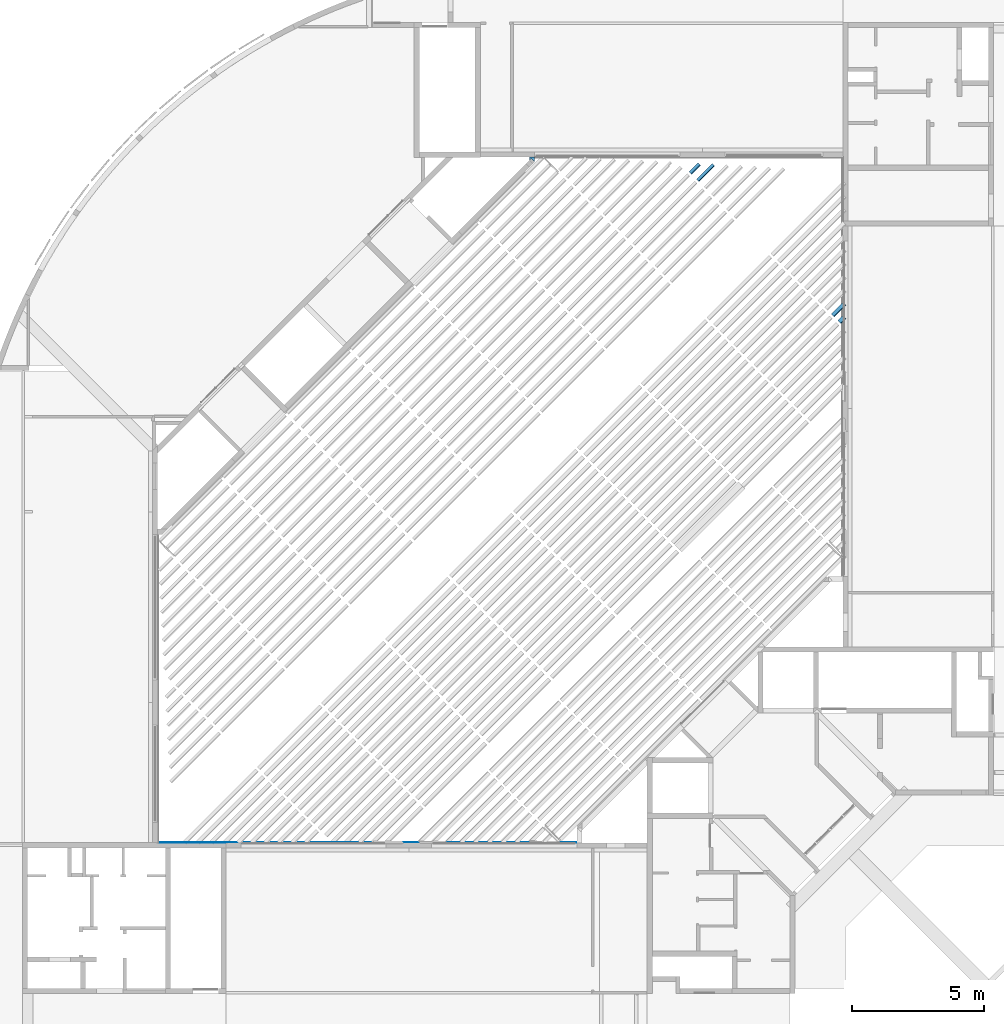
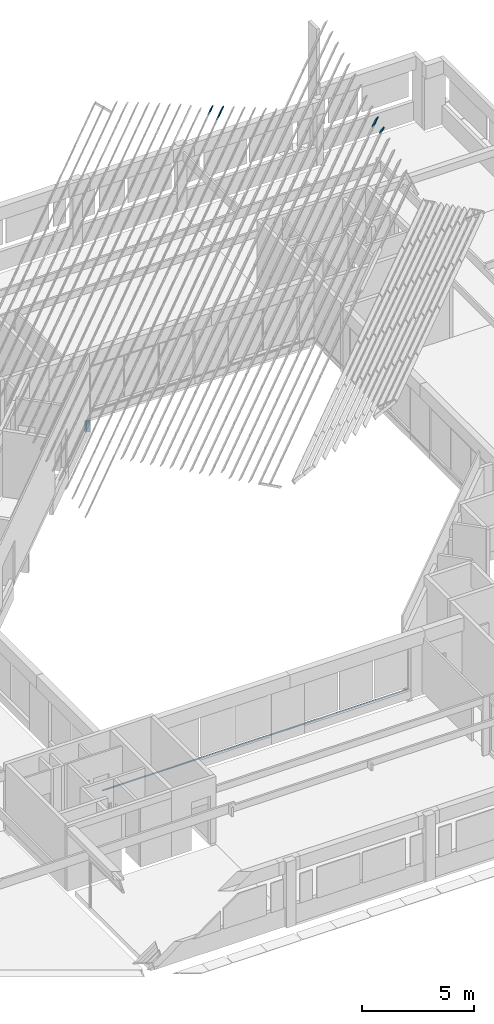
# One storey, part 15 of 37: 5 beams, 1 member.
"""IFC4X3_ADD2 building model written with IfcOpenShell, lengths in millimetres."""

from ifc_helpers import new_model, si_unit, direction, frame, origin_with_axes, origin_2d_with_axis, place, context, subcontext, project, spatial, rectangle, extrude, polygons, source, transform, mapped, material, type_object, type_shapes, element, save


model = new_model("IFC4X3_ADD2")

# Units and contexts
model_context = context("Model", 3, precision=1e-05, world=origin_with_axes(), true_north=direction((0.0, 1.0)))
body_context = subcontext(model_context, "Body", "Model", "MODEL_VIEW")
ifc_project = project(units=[si_unit("LENGTHUNIT", "METRE", prefix="MILLI"), si_unit("AREAUNIT", "SQUARE_METRE"), si_unit("VOLUMEUNIT", "CUBIC_METRE"), si_unit("PLANEANGLEUNIT", "RADIAN"), si_unit("TIMEUNIT", "SECOND"), si_unit("MASSUNIT", "GRAM")], contexts=[model_context])

# Site, building, storey
site_placement = place(None, origin_with_axes())
site = spatial("IfcSite", under=ifc_project, at=site_placement, Name="Site", CompositionType="ELEMENT")
building_placement = place(site_placement, origin_with_axes())
building = spatial("IfcBuilding", under=site, at=building_placement, Name="IFC Building Story")
storey_placement = place(building_placement, frame((0.0, 0.0, 3600.0), z_axis=(0.0, 0.0, 1.0), x_axis=(1.0, 0.0, 0.0)))
storey = spatial("IfcBuildingStorey", under=building, at=storey_placement, Name="010", Elevation=3600.0)

# Beams
ifc_material_1 = material(Name="GVH_i2_naaldhout_generiek")
beam_type_1 = type_object("IfcBeamType", Name="28_SF_hout_rechthoekig_40 x 230_255", PredefinedType="NOTDEFINED")
shared_shape_1 = source(origin_with_axes(), body_context, "Body", "SweptSolid", [
    extrude(rectangle(XDim=833.300589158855, YDim=40.0000000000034, at=origin_2d_with_axis()), frame((-37.09236743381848, 0.0, -115.0), z_axis=(0.0, 0.0, 1.0), x_axis=(1.0, 0.0, 0.0)), (0.0, 0.0, 1.0), 229.9999999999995),
])
type_shapes(beam_type_1, [shared_shape_1])
beam_1_placement = place(storey_placement, frame((-17912.0264581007, 37991.9573424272, 14626.8200457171), z_axis=(0.311937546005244, -0.311937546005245, 0.8974351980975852), x_axis=(-0.7071067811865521, -0.707106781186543, 0.0)))
element("IfcBeam", 1, at=beam_1_placement, inside=storey, type_object=beam_type_1, material=ifc_material_1, Name="28_SF_hout_rechthoekig:40 x 230", ObjectType="40 x 230", PredefinedType="BEAM", context=body_context, shape_type="MappedRepresentation", body=[
    mapped(shared_shape_1, transform((0.0, 0.0, 0.0))),
])
beam_type_2 = type_object("IfcBeamType", Name="28_SF_hout_rechthoekig_40 x 230_257", PredefinedType="NOTDEFINED")
shared_shape_2 = source(origin_with_axes(), body_context, "Body", "SweptSolid", [
    extrude(rectangle(XDim=476.878001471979, YDim=40.0000000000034, at=origin_2d_with_axis()), frame((-38.88120823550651, 0.0, -115.0), z_axis=(0.0, 0.0, 1.0), x_axis=(1.0, 0.0, 0.0)), (0.0, 0.0, 1.0), 230.0),
])
type_shapes(beam_type_2, [shared_shape_2])
beam_2_placement = place(storey_placement, frame((-18320.2988160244, 38145.6712591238, 14822.1596309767), z_axis=(0.311937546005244, -0.311937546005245, 0.8974351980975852), x_axis=(-0.7071067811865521, -0.707106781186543, 0.0)))
element("IfcBeam", 2, at=beam_2_placement, inside=storey, type_object=beam_type_2, material=ifc_material_1, Name="28_SF_hout_rechthoekig:40 x 230", ObjectType="40 x 230", PredefinedType="BEAM", context=body_context, shape_type="MappedRepresentation", body=[
    mapped(shared_shape_2, transform((0.0, 0.0, 0.0))),
])
beam_type_3 = type_object("IfcBeamType", Name="28_SF_hout_rechthoekig_40 x 230_545", PredefinedType="NOTDEFINED")
shared_shape_3 = source(origin_with_axes(), body_context, "Body", "SweptSolid", [
    extrude(rectangle(XDim=626.767209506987, YDim=40.0000000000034, at=origin_2d_with_axis()), frame((1375.576601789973, 0.0, -115.0), z_axis=(0.0, 0.0, 1.0), x_axis=(1.0, 0.0, 0.0)), (0.0, 0.0, 1.0), 230.0),
])
type_shapes(beam_type_3, [shared_shape_3])
beam_3_placement = place(storey_placement, frame((-11885.8542957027, 33817.5681313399, 15521.0595232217), z_axis=(0.4307932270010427, -0.4307932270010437, 0.7929907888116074), x_axis=(-0.7071067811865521, -0.707106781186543, 0.0)))
element("IfcBeam", 3, at=beam_3_placement, inside=storey, type_object=beam_type_3, material=ifc_material_1, Name="28_SF_hout_rechthoekig:40 x 230", ObjectType="40 x 230", PredefinedType="BEAM", context=body_context, shape_type="MappedRepresentation", body=[
    mapped(shared_shape_3, transform((0.0, 0.0, 0.0))),
])
beam_type_4 = type_object("IfcBeamType", Name="28_SF_hout_rechthoekig_40 x 230_707", PredefinedType="NOTDEFINED")
shared_shape_4 = source(origin_with_axes(), body_context, "Body", "SweptSolid", [
    extrude(rectangle(XDim=267.541848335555, YDim=40.0000000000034, at=origin_2d_with_axis()), frame((1555.189231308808, 0.0, -115.0), z_axis=(0.0, 0.0, 1.0), x_axis=(1.0, 0.0, 0.0)), (0.0, 0.0, 1.0), 230.0),
])
type_shapes(beam_type_4, [shared_shape_4])
beam_4_placement = place(storey_placement, frame((-11631.843984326, 33563.5578199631, 15245.0766914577), z_axis=(0.4307932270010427, -0.4307932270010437, 0.7929907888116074), x_axis=(-0.7071067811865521, -0.707106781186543, 0.0)))
element("IfcBeam", 4, at=beam_4_placement, inside=storey, type_object=beam_type_4, material=ifc_material_1, Name="28_SF_hout_rechthoekig:40 x 230", ObjectType="40 x 230", PredefinedType="BEAM", context=body_context, shape_type="MappedRepresentation", body=[
    mapped(shared_shape_4, transform((0.0, 0.0, 0.0))),
])
ifc_material_2 = material(Name="BB_Beton_Bestaand")
beam_type_5 = type_object("IfcBeamType", Name="BB_XX_Betonbalk_ rechthoekig_ center-center_SFB_200 x 600 mm", PredefinedType="NOTDEFINED")
shared_shape_5 = source(origin_with_axes(), body_context, "Body", "Tessellation", [
    polygons([(-4.33146851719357e-12, 189.594784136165, 0.0), (-4.33146851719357e-12, 189.594784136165, 600.0), (199.999999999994, 189.594784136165, 600.0), (199.999999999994, 189.594784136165, 0.0), (-4.33146851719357e-12, 68.5648215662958, 0.0), (-4.33146851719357e-12, 68.5648215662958, 600.0), (200.006542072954, 0.0196262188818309, 0.0), (65.7372154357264, 134.302037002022, 0.0), (200.006542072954, 0.0196262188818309, 600.0), (65.7372154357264, 134.302037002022, 600.0)], [[[1, 2, 3, 4]], [[2, 1, 5, 6]], [[8, 5, 1]], [[8, 1, 4]], [[4, 7, 8]], [[4, 3, 9, 7]], [[10, 9, 3]], [[3, 2, 10]], [[2, 6, 10]], [[8, 10, 6, 5]], [[10, 8, 7, 9]]]),
])
type_shapes(beam_type_5, [shared_shape_5])
beam_5_placement = place(storey_placement, frame((-24545.0, 38415.4011499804, -800.0), z_axis=(0.0, 0.0, 1.0), x_axis=(1.0, 0.0, 0.0)))
element("IfcBeam", 5, at=beam_5_placement, inside=storey, type_object=beam_type_5, material=ifc_material_2, Name="BB_XX_Betonbalk, rechthoekig, center-center_SFB:200 x 600 mm", ObjectType="BB_XX_Betonbalk, rechthoekig, center-center_SFB:200 x 600 mm", PredefinedType="BEAM", context=body_context, shape_type="MappedRepresentation", body=[
    mapped(shared_shape_5, transform((0.0, 0.0, 0.0))),
])

# Member
ifc_material_3 = material(Name="BB_Metaal_Aluminium_Buitenschrijnwerk")
member_type = type_object("IfcMemberType", Name="BB_10.12.90_Verankeringsrail_GLI_XX_H 50mm x B 30mm", PredefinedType="NOTDEFINED")
shared_shape_6 = source(origin_with_axes(), body_context, "Body", "Tessellation", [
    polygons([(30.0000000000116, 29.9999999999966, -1.86117787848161e-12), (6.29698515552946e-12, -8.42676484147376e-12, -1.86117787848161e-12), (15815.0031355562, -8.42605984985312e-12, -1.86117787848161e-12), (15815.0031355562, 29.9999999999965, -1.86117787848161e-12), (6.29698515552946e-12, -8.42746983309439e-12, -50.0000000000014), (15815.0031355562, -8.42605984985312e-12, -50.0000000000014), (30.0000000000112, 29.9999999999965, -50.0000000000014), (15815.0031355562, 29.9999999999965, -50.0000000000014)], [[[1, 2, 3, 4]], [[2, 5, 6, 3]], [[5, 7, 8, 6]], [[7, 1, 4, 8]], [[2, 1, 7, 5]], [[4, 3, 6, 8]]]),
])
type_shapes(member_type, [shared_shape_6])
member_placement = place(storey_placement, frame((-38590.0031355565, 12695.004065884, 220.0), z_axis=(0.0, 0.0, 1.0), x_axis=(1.0, 0.0, 0.0)))
element("IfcMember", 6, at=member_placement, inside=storey, type_object=member_type, material=ifc_material_3, Name="BB_10.12.90_Verankeringsrail_GLI:XX_H 50mm x B 30mm", ObjectType="BB_10.12.90_Verankeringsrail_GLI:XX_H 50mm x B 30mm", PredefinedType="USERDEFINED", context=body_context, shape_type="MappedRepresentation", body=[
    mapped(shared_shape_6, transform((0.0, 0.0, 0.0))),
])

save(model, "model.ifc")
